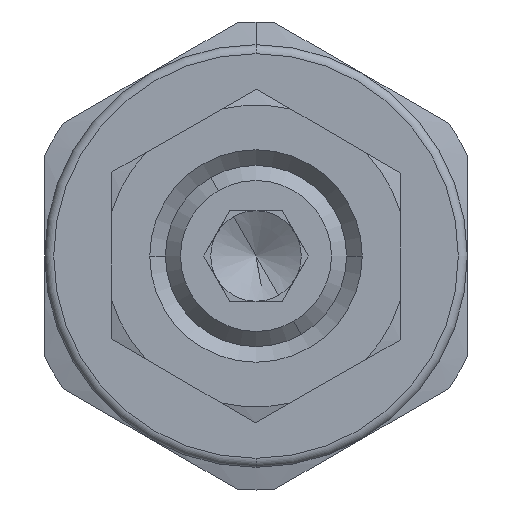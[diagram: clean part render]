
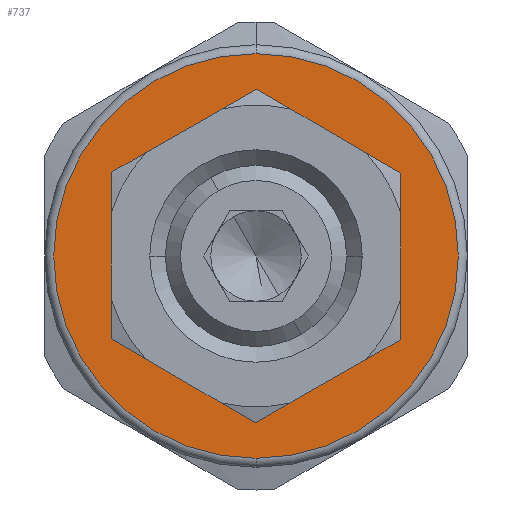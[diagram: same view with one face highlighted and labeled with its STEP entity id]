
A CAD part, front view. The second image highlights one B-rep face of the part: STEP entity #737.
In plain terms, the highlighted planar face has unit normal (0, -1, 0).
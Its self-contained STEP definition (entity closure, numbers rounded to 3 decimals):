
#32 = CIRCLE ( 'NONE', #36, 2.5 ) ;
#36 = AXIS2_PLACEMENT_3D ( 'NONE', #6287, #6288, #6289 ) ;
#38 = CIRCLE ( 'NONE', #41, 2.5 ) ;
#41 = AXIS2_PLACEMENT_3D ( 'NONE', #6296, #6297, #6298 ) ;
#447 = EDGE_LOOP ( 'NONE', ( #3128, #3129 ) ) ;
#479 = EDGE_LOOP ( 'NONE', ( #3126, #3127 ) ) ;
#677 = EDGE_CURVE ( 'NONE', #2064, #2058, #4710, .T. ) ;
#737 = ADVANCED_FACE ( 'NONE', ( #5584, #5585 ), #5586, .T. ) ;
#1557 = EDGE_CURVE ( 'NONE', #2058, #2064, #2787, .T. ) ;
#2036 = VERTEX_POINT ( 'NONE', #2570 ) ;
#2042 = VERTEX_POINT ( 'NONE', #2573 ) ;
#2058 = VERTEX_POINT ( 'NONE', #2582 ) ;
#2064 = VERTEX_POINT ( 'NONE', #2586 ) ;
#2091 = CARTESIAN_POINT ( 'NONE',  ( 0., -2., 0. ) ) ;
#2093 = DIRECTION ( 'NONE',  ( 0., -1., 0. ) ) ;
#2095 = DIRECTION ( 'NONE',  ( 0., 0., -1. ) ) ;
#2246 = EDGE_CURVE ( 'NONE', #2042, #2036, #32, .T. ) ;
#2252 = EDGE_CURVE ( 'NONE', #2036, #2042, #38, .T. ) ;
#2570 = CARTESIAN_POINT ( 'NONE',  ( 0., -2., -2.5 ) ) ;
#2573 = CARTESIAN_POINT ( 'NONE',  ( 0., -2., 2.5 ) ) ;
#2582 = CARTESIAN_POINT ( 'NONE',  ( 0., -2., -6.7 ) ) ;
#2586 = CARTESIAN_POINT ( 'NONE',  ( 0., -2., 6.7 ) ) ;
#2737 = AXIS2_PLACEMENT_3D ( 'NONE', #2091, #2093, #2095 ) ;
#2787 = CIRCLE ( 'NONE', #2737, 6.7 ) ;
#3126 = ORIENTED_EDGE ( 'NONE', *, *, #1557, .T. ) ;
#3127 = ORIENTED_EDGE ( 'NONE', *, *, #677, .T. ) ;
#3128 = ORIENTED_EDGE ( 'NONE', *, *, #2252, .F. ) ;
#3129 = ORIENTED_EDGE ( 'NONE', *, *, #2246, .F. ) ;
#4710 = CIRCLE ( 'NONE', #4713, 6.7 ) ;
#4713 = AXIS2_PLACEMENT_3D ( 'NONE', #5285, #5286, #5287 ) ;
#4776 = AXIS2_PLACEMENT_3D ( 'NONE', #5576, #5588, #5589 ) ;
#5285 = CARTESIAN_POINT ( 'NONE',  ( 0., -2., 0. ) ) ;
#5286 = DIRECTION ( 'NONE',  ( 0., -1., 0. ) ) ;
#5287 = DIRECTION ( 'NONE',  ( 0., 0., -1. ) ) ;
#5576 = CARTESIAN_POINT ( 'NONE',  ( 0., -2., 0. ) ) ;
#5584 = FACE_OUTER_BOUND ( 'NONE', #479, .T. ) ;
#5585 = FACE_BOUND ( 'NONE', #447, .T. ) ;
#5586 = PLANE ( 'NONE',  #4776 ) ;
#5588 = DIRECTION ( 'NONE',  ( 0., -1., 0. ) ) ;
#5589 = DIRECTION ( 'NONE',  ( 0., 0., -1. ) ) ;
#6287 = CARTESIAN_POINT ( 'NONE',  ( 0., -2., 0. ) ) ;
#6288 = DIRECTION ( 'NONE',  ( 0., -1., 0. ) ) ;
#6289 = DIRECTION ( 'NONE',  ( 0., 0., -1. ) ) ;
#6296 = CARTESIAN_POINT ( 'NONE',  ( 0., -2., 0. ) ) ;
#6297 = DIRECTION ( 'NONE',  ( 0., -1., 0. ) ) ;
#6298 = DIRECTION ( 'NONE',  ( 0., 0., -1. ) ) ;
